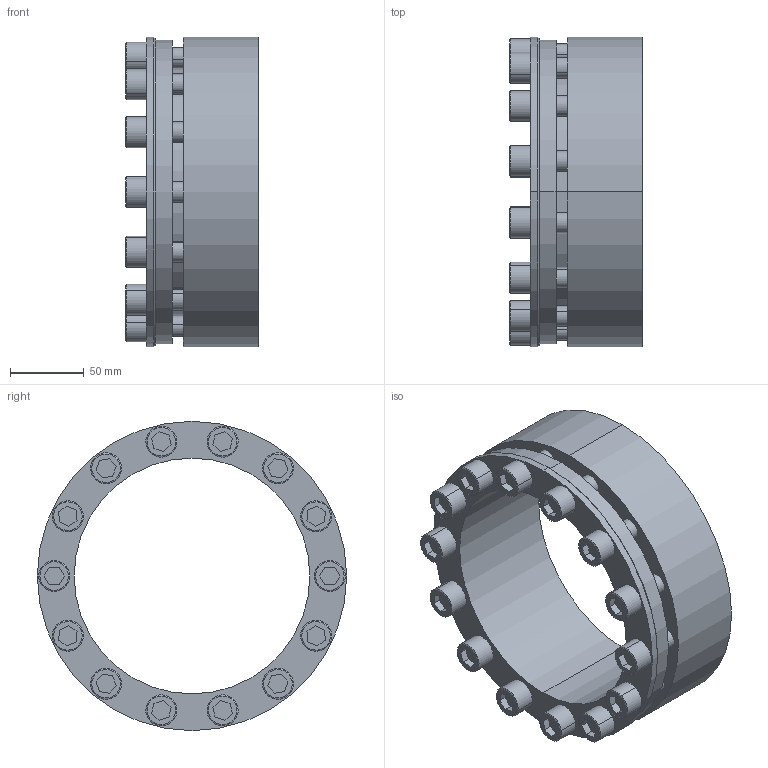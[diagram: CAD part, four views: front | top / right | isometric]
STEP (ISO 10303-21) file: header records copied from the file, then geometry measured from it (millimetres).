
FILE_DESCRIPTION (( 'STEP AP203' ), '1' );
FILE_NAME ('SD-160.step', '2009-09-29T16:26:20', ( 'USER' ), ( 'HOME' ), 'SwSTEP 2.0', 'SolidWorks 2007', '' );
FILE_SCHEMA (( 'CONFIG_CONTROL_DESIGN' ));
Length unit declared in the file: millimetre
Products named in the file (1): SD-160
Bounding box: 90 x 210 x 210 mm (x, y, z)
Volume: 1010601 mm3; surface area: 214363.1 mm2
Topology: 15 solids, 15 shells, 297 faces, 678 edges, 442 vertices
Faces by surface type: plane 145, cylinder 122, cone 30
Entity records: 8571 total; most frequent: DIRECTION 1548, CARTESIAN_POINT 1418, ORIENTED_EDGE 1356, EDGE_CURVE 678, AXIS2_PLACEMENT_3D 572, VERTEX_POINT 442, LINE 404, VECTOR 404
